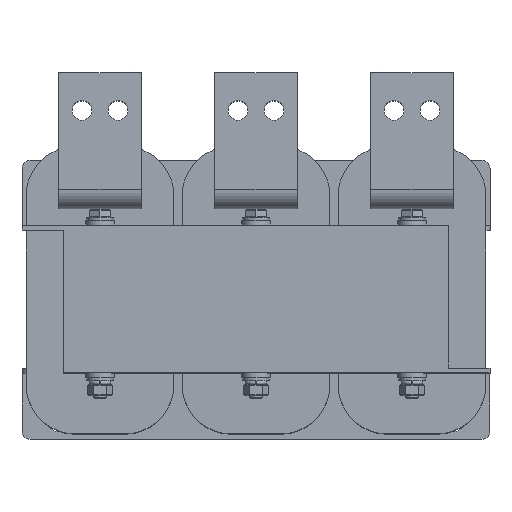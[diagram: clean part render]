
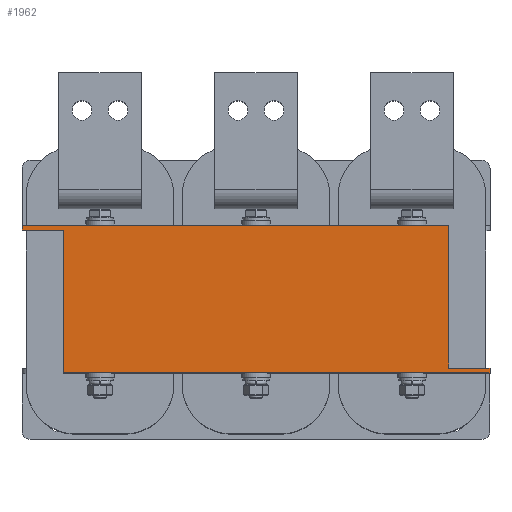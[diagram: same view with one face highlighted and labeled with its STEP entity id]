
A CAD part, top view. The second image highlights one B-rep face of the part: STEP entity #1962.
In plain terms, the highlighted planar face has unit normal (0, 0, 1).
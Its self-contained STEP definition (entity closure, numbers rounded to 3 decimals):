
#1962=ADVANCED_FACE('',(#2711),#2713,.T.);
#2711=FACE_BOUND('',#2712,.T.);
#2712=EDGE_LOOP('',(#3580,#3581,#3582,#3583,#3584,#3585,#3586,#3587));
#2713=PLANE('',#2714);
#2714=AXIS2_PLACEMENT_3D('',#2715,#2716,#2717);
#2715=CARTESIAN_POINT('',(0.,0.,52.));
#2716=DIRECTION('',(0.,0.,1.));
#2717=DIRECTION('',(-1.,0.,0.));
#3580=ORIENTED_EDGE('',*,*,#3994,.T.);
#3581=ORIENTED_EDGE('',*,*,#4013,.T.);
#3582=ORIENTED_EDGE('',*,*,#3983,.T.);
#3583=ORIENTED_EDGE('',*,*,#4014,.T.);
#3584=ORIENTED_EDGE('',*,*,#3975,.T.);
#3585=ORIENTED_EDGE('',*,*,#4015,.T.);
#3586=ORIENTED_EDGE('',*,*,#3964,.T.);
#3587=ORIENTED_EDGE('',*,*,#4012,.T.);
#3964=EDGE_CURVE('',#4396,#4394,#4397,.T.);
#3975=EDGE_CURVE('',#4418,#4416,#4419,.T.);
#3983=EDGE_CURVE('',#4434,#4432,#4435,.T.);
#3994=EDGE_CURVE('',#4456,#4454,#4457,.T.);
#4012=EDGE_CURVE('',#4394,#4456,#4479,.T.);
#4013=EDGE_CURVE('',#4454,#4434,#4480,.T.);
#4014=EDGE_CURVE('',#4432,#4418,#4481,.T.);
#4015=EDGE_CURVE('',#4416,#4396,#4482,.T.);
#4394=VERTEX_POINT('',#5302);
#4396=VERTEX_POINT('',#5306);
#4397=LINE('',#5307,#5308);
#4416=VERTEX_POINT('',#5351);
#4418=VERTEX_POINT('',#5355);
#4419=LINE('',#5356,#5357);
#4432=VERTEX_POINT('',#5385);
#4434=VERTEX_POINT('',#5389);
#4435=LINE('',#5390,#5391);
#4454=VERTEX_POINT('',#5434);
#4456=VERTEX_POINT('',#5438);
#4457=LINE('',#5439,#5440);
#4479=LINE('',#5499,#5500);
#4480=LINE('',#5502,#5503);
#4481=LINE('',#5505,#5506);
#4482=LINE('',#5508,#5509);
#5302=CARTESIAN_POINT('',(-142.5,45.,52.));
#5306=CARTESIAN_POINT('',(117.5,45.,52.));
#5307=CARTESIAN_POINT('',(117.5,45.,52.));
#5308=VECTOR('',#5309,1.);
#5309=DIRECTION('',(-1.,0.,0.));
#5351=CARTESIAN_POINT('',(117.5,-42.,52.));
#5355=CARTESIAN_POINT('',(142.5,-42.,52.));
#5356=CARTESIAN_POINT('',(142.5,-42.,52.));
#5357=VECTOR('',#5358,1.);
#5358=DIRECTION('',(-1.,0.,0.));
#5385=CARTESIAN_POINT('',(142.5,-45.,52.));
#5389=CARTESIAN_POINT('',(-117.5,-45.,52.));
#5390=CARTESIAN_POINT('',(-117.5,-45.,52.));
#5391=VECTOR('',#5392,1.);
#5392=DIRECTION('',(1.,0.,0.));
#5434=CARTESIAN_POINT('',(-117.5,42.,52.));
#5438=CARTESIAN_POINT('',(-142.5,42.,52.));
#5439=CARTESIAN_POINT('',(-142.5,42.,52.));
#5440=VECTOR('',#5441,1.);
#5441=DIRECTION('',(1.,0.,0.));
#5499=CARTESIAN_POINT('',(-142.5,45.,52.));
#5500=VECTOR('',#5501,1.);
#5501=DIRECTION('',(0.,-1.,0.));
#5502=CARTESIAN_POINT('',(-117.5,42.,52.));
#5503=VECTOR('',#5504,1.);
#5504=DIRECTION('',(0.,-1.,0.));
#5505=CARTESIAN_POINT('',(142.5,-45.,52.));
#5506=VECTOR('',#5507,1.);
#5507=DIRECTION('',(0.,1.,0.));
#5508=CARTESIAN_POINT('',(117.5,-42.,52.));
#5509=VECTOR('',#5510,1.);
#5510=DIRECTION('',(0.,1.,0.));
